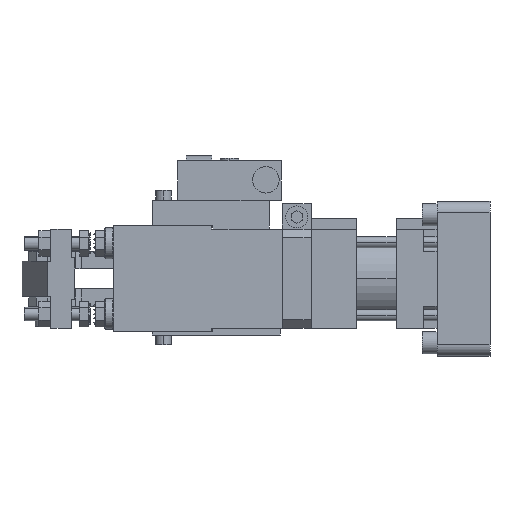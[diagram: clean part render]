
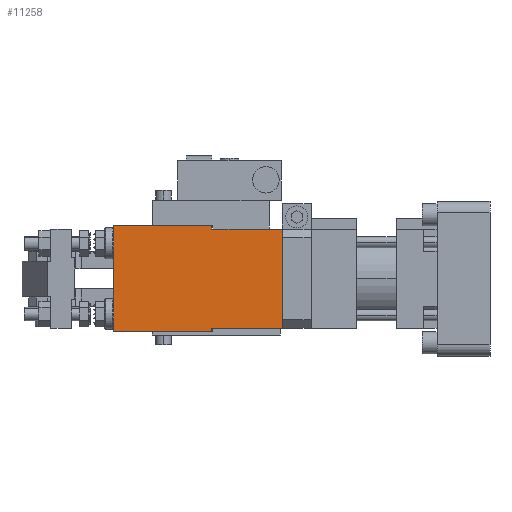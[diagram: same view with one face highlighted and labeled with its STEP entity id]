
A CAD part, left-side view. The second image highlights one B-rep face of the part: STEP entity #11258.
In plain terms, the highlighted planar face has unit normal (-1, 0, 0).
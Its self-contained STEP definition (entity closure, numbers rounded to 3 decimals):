
#72 = LINE ( 'NONE', #11682, #21284 ) ;
#106 = DIRECTION ( 'NONE',  ( 0., -1., 0. ) ) ;
#663 = DIRECTION ( 'NONE',  ( 0., -1., 0. ) ) ;
#735 = CARTESIAN_POINT ( 'NONE',  ( -22.5, -40., 22.5 ) ) ;
#860 = LINE ( 'NONE', #12235, #11159 ) ;
#1570 = CARTESIAN_POINT ( 'NONE',  ( -22.5, -40., -22.5 ) ) ;
#1875 = VERTEX_POINT ( 'NONE', #22254 ) ;
#1989 = EDGE_CURVE ( 'NONE', #22191, #22484, #5425, .T. ) ;
#2086 = ORIENTED_EDGE ( 'NONE', *, *, #10910, .T. ) ;
#2222 = VECTOR ( 'NONE', #9251, 1000. ) ;
#2551 = DIRECTION ( 'NONE',  ( 1., 0., 0. ) ) ;
#2929 = EDGE_CURVE ( 'NONE', #8415, #4334, #18889, .T. ) ;
#3365 = CARTESIAN_POINT ( 'NONE',  ( -22.5, 36.5, -24. ) ) ;
#3511 = AXIS2_PLACEMENT_3D ( 'NONE', #16169, #2551, #20094 ) ;
#3917 = ORIENTED_EDGE ( 'NONE', *, *, #2929, .F. ) ;
#4204 = LINE ( 'NONE', #7398, #24247 ) ;
#4215 = VECTOR ( 'NONE', #24971, 1000. ) ;
#4334 = VERTEX_POINT ( 'NONE', #21612 ) ;
#5425 = LINE ( 'NONE', #19885, #15104 ) ;
#5469 = DIRECTION ( 'NONE',  ( 0., 0., 1. ) ) ;
#5737 = VECTOR ( 'NONE', #9843, 1000. ) ;
#7398 = CARTESIAN_POINT ( 'NONE',  ( -22.5, -8., -24. ) ) ;
#7880 = CARTESIAN_POINT ( 'NONE',  ( -22.5, -40., 12.5 ) ) ;
#8415 = VERTEX_POINT ( 'NONE', #3365 ) ;
#9251 = DIRECTION ( 'NONE',  ( 0., 0., 1. ) ) ;
#9843 = DIRECTION ( 'NONE',  ( 0., 0., -1. ) ) ;
#9969 = LINE ( 'NONE', #13311, #4215 ) ;
#10269 = ORIENTED_EDGE ( 'NONE', *, *, #1989, .T. ) ;
#10703 = ORIENTED_EDGE ( 'NONE', *, *, #21429, .F. ) ;
#10910 = EDGE_CURVE ( 'NONE', #1875, #22191, #4204, .T. ) ;
#11105 = EDGE_CURVE ( 'NONE', #13264, #22484, #21195, .T. ) ;
#11159 = VECTOR ( 'NONE', #663, 1000. ) ;
#11258 = ADVANCED_FACE ( 'NONE', ( #17496 ), #18087, .F. ) ;
#11682 = CARTESIAN_POINT ( 'NONE',  ( -22.5, 22., 24. ) ) ;
#12235 = CARTESIAN_POINT ( 'NONE',  ( -22.5, 22., 22.5 ) ) ;
#12996 = VERTEX_POINT ( 'NONE', #16281 ) ;
#13095 = DIRECTION ( 'NONE',  ( 0., 0., -1. ) ) ;
#13161 = CARTESIAN_POINT ( 'NONE',  ( -22.5, 36.5, 24. ) ) ;
#13264 = VERTEX_POINT ( 'NONE', #735 ) ;
#13311 = CARTESIAN_POINT ( 'NONE',  ( -22.5, 22., -24. ) ) ;
#13850 = CARTESIAN_POINT ( 'NONE',  ( -22.5, -8., -22.5 ) ) ;
#14384 = VECTOR ( 'NONE', #13095, 1000. ) ;
#15104 = VECTOR ( 'NONE', #21915, 1000. ) ;
#15423 = EDGE_CURVE ( 'NONE', #8415, #1875, #9969, .T. ) ;
#15842 = ORIENTED_EDGE ( 'NONE', *, *, #20191, .F. ) ;
#16169 = CARTESIAN_POINT ( 'NONE',  ( -22.5, 22., 12.5 ) ) ;
#16281 = CARTESIAN_POINT ( 'NONE',  ( -22.5, -8., 24. ) ) ;
#17496 = FACE_OUTER_BOUND ( 'NONE', #19702, .T. ) ;
#17511 = VERTEX_POINT ( 'NONE', #21107 ) ;
#18087 = PLANE ( 'NONE',  #3511 ) ;
#18889 = LINE ( 'NONE', #13161, #2222 ) ;
#18944 = LINE ( 'NONE', #22783, #14384 ) ;
#19702 = EDGE_LOOP ( 'NONE', ( #10703, #3917, #23153, #2086, #10269, #22604, #20089, #15842 ) ) ;
#19885 = CARTESIAN_POINT ( 'NONE',  ( -22.5, 22., -22.5 ) ) ;
#20089 = ORIENTED_EDGE ( 'NONE', *, *, #24023, .F. ) ;
#20094 = DIRECTION ( 'NONE',  ( 0., 1., 0. ) ) ;
#20191 = EDGE_CURVE ( 'NONE', #12996, #17511, #18944, .T. ) ;
#21107 = CARTESIAN_POINT ( 'NONE',  ( -22.5, -8., 22.5 ) ) ;
#21195 = LINE ( 'NONE', #7880, #5737 ) ;
#21284 = VECTOR ( 'NONE', #106, 1000. ) ;
#21429 = EDGE_CURVE ( 'NONE', #4334, #12996, #72, .T. ) ;
#21612 = CARTESIAN_POINT ( 'NONE',  ( -22.5, 36.5, 24. ) ) ;
#21915 = DIRECTION ( 'NONE',  ( 0., -1., 0. ) ) ;
#22191 = VERTEX_POINT ( 'NONE', #13850 ) ;
#22254 = CARTESIAN_POINT ( 'NONE',  ( -22.5, -8., -24. ) ) ;
#22484 = VERTEX_POINT ( 'NONE', #1570 ) ;
#22604 = ORIENTED_EDGE ( 'NONE', *, *, #11105, .F. ) ;
#22783 = CARTESIAN_POINT ( 'NONE',  ( -22.5, -8., 24. ) ) ;
#23153 = ORIENTED_EDGE ( 'NONE', *, *, #15423, .T. ) ;
#24023 = EDGE_CURVE ( 'NONE', #17511, #13264, #860, .T. ) ;
#24247 = VECTOR ( 'NONE', #5469, 1000. ) ;
#24971 = DIRECTION ( 'NONE',  ( 0., -1., 0. ) ) ;
